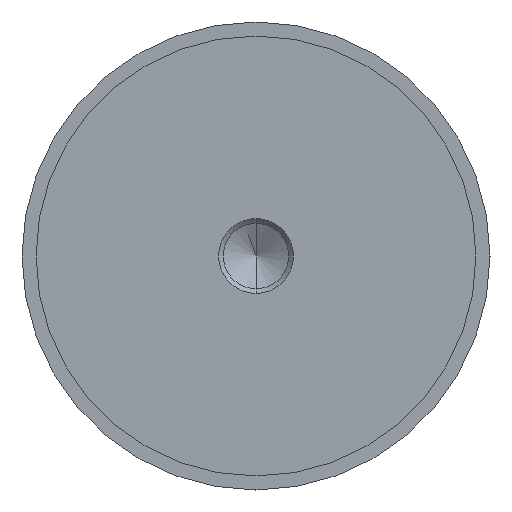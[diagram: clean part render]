
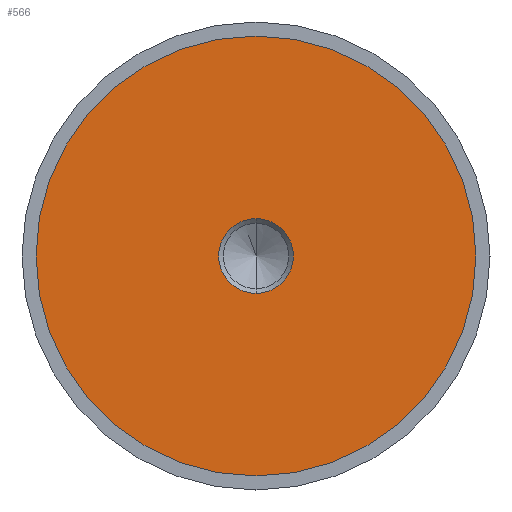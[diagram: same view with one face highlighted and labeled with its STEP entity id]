
A CAD part, left-side view. The second image highlights one B-rep face of the part: STEP entity #566.
In plain terms, the highlighted planar face has unit normal (-1, 0, 0).
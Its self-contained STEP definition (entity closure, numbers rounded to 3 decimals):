
#34 = EDGE_LOOP ( 'NONE', ( #885, #761 ) ) ;
#48 = PLANE ( 'NONE',  #816 ) ;
#51 = EDGE_CURVE ( 'NONE', #396, #357, #318, .T. ) ;
#57 = CARTESIAN_POINT ( 'NONE',  ( -29.99, 0., 0. ) ) ;
#88 = CARTESIAN_POINT ( 'NONE',  ( -29.99, 0., 0. ) ) ;
#98 = DIRECTION ( 'NONE',  ( -1., 0., 0. ) ) ;
#110 = CARTESIAN_POINT ( 'NONE',  ( -29.99, 47., 0. ) ) ;
#113 = CARTESIAN_POINT ( 'NONE',  ( -29.99, 0., -7.99 ) ) ;
#145 = DIRECTION ( 'NONE',  ( 0., 0., -1. ) ) ;
#167 = VERTEX_POINT ( 'NONE', #612 ) ;
#205 = CARTESIAN_POINT ( 'NONE',  ( -29.99, 0., 0. ) ) ;
#259 = ORIENTED_EDGE ( 'NONE', *, *, #51, .T. ) ;
#264 = EDGE_LOOP ( 'NONE', ( #259, #732 ) ) ;
#300 = FACE_OUTER_BOUND ( 'NONE', #34, .T. ) ;
#307 = DIRECTION ( 'NONE',  ( 1., 0., 0. ) ) ;
#308 = AXIS2_PLACEMENT_3D ( 'NONE', #57, #675, #342 ) ;
#318 = CIRCLE ( 'NONE', #605, 7.99 ) ;
#324 = CIRCLE ( 'NONE', #665, 47. ) ;
#327 = CIRCLE ( 'NONE', #832, 47. ) ;
#342 = DIRECTION ( 'NONE',  ( 0., 0., -1. ) ) ;
#357 = VERTEX_POINT ( 'NONE', #113 ) ;
#385 = CARTESIAN_POINT ( 'NONE',  ( -29.99, 0., 7.99 ) ) ;
#396 = VERTEX_POINT ( 'NONE', #385 ) ;
#438 = CARTESIAN_POINT ( 'NONE',  ( -29.99, 0., 0. ) ) ;
#501 = DIRECTION ( 'NONE',  ( -1., 0., 0. ) ) ;
#521 = FACE_BOUND ( 'NONE', #264, .T. ) ;
#566 = ADVANCED_FACE ( 'NONE', ( #521, #300 ), #48, .F. ) ;
#574 = EDGE_CURVE ( 'NONE', #167, #715, #324, .T. ) ;
#605 = AXIS2_PLACEMENT_3D ( 'NONE', #205, #765, #145 ) ;
#612 = CARTESIAN_POINT ( 'NONE',  ( -29.99, 0., -47. ) ) ;
#616 = EDGE_CURVE ( 'NONE', #357, #396, #772, .T. ) ;
#665 = AXIS2_PLACEMENT_3D ( 'NONE', #438, #98, #793 ) ;
#675 = DIRECTION ( 'NONE',  ( 1., 0., 0. ) ) ;
#715 = VERTEX_POINT ( 'NONE', #766 ) ;
#721 = DIRECTION ( 'NONE',  ( 0., 0., 1. ) ) ;
#728 = DIRECTION ( 'NONE',  ( 0., 0., -1. ) ) ;
#732 = ORIENTED_EDGE ( 'NONE', *, *, #616, .T. ) ;
#744 = EDGE_CURVE ( 'NONE', #715, #167, #327, .T. ) ;
#761 = ORIENTED_EDGE ( 'NONE', *, *, #574, .T. ) ;
#765 = DIRECTION ( 'NONE',  ( 1., 0., 0. ) ) ;
#766 = CARTESIAN_POINT ( 'NONE',  ( -29.99, 0., 47. ) ) ;
#772 = CIRCLE ( 'NONE', #308, 7.99 ) ;
#793 = DIRECTION ( 'NONE',  ( 0., 0., 1. ) ) ;
#816 = AXIS2_PLACEMENT_3D ( 'NONE', #110, #307, #728 ) ;
#832 = AXIS2_PLACEMENT_3D ( 'NONE', #88, #501, #721 ) ;
#885 = ORIENTED_EDGE ( 'NONE', *, *, #744, .T. ) ;
